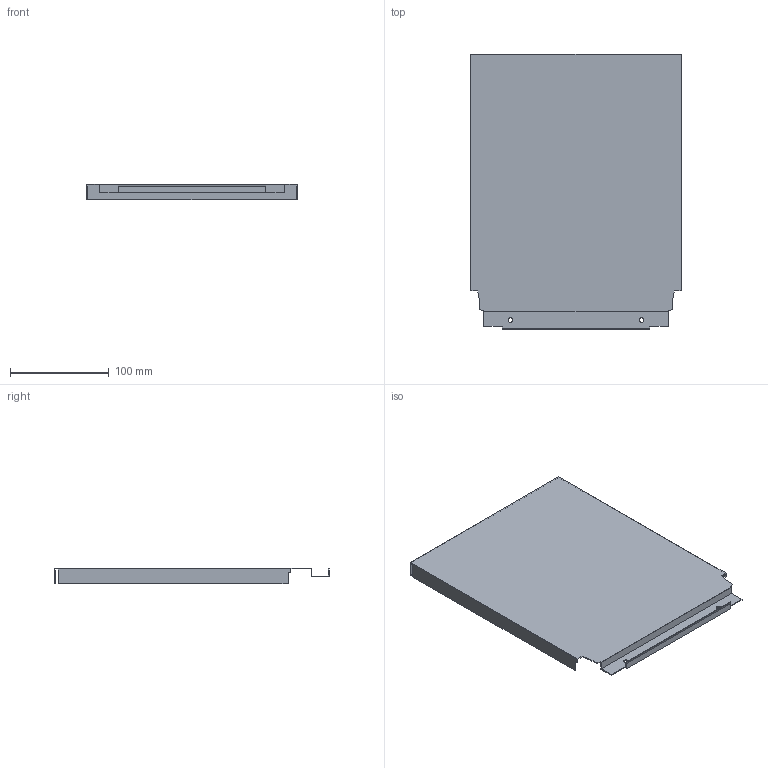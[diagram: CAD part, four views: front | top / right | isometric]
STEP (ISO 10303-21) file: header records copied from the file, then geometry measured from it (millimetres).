
FILE_DESCRIPTION (( 'STEP AP214' ), '1' );
FILE_NAME ('_DWD_XP Stahlrückwand_H278_KAB300_S18.step', '2010-07-08T13:03:53', ( 'grass' ), ( '' ), 'SwSTEP 2.0', 'SolidWorks 2010', '' );
FILE_SCHEMA (( 'AUTOMOTIVE_DESIGN' ));
Length unit declared in the file: millimetre
Products named in the file (1): _DWD_XP Stahlrückwand_H278_KAB300_S18
Bounding box: 213 x 278.57 x 16 mm (x, y, z)
Volume: 62640.5 mm3; surface area: 143341.2 mm2
Topology: 1 solids, 1 shells, 44 faces, 126 edges, 84 vertices
Faces by surface type: plane 40, cylinder 4
Entity records: 1460 total; most frequent: CARTESIAN_POINT 255, ORIENTED_EDGE 252, DIRECTION 224, EDGE_CURVE 126, VECTOR 118, LINE 118, VERTEX_POINT 84, AXIS2_PLACEMENT_3D 53
